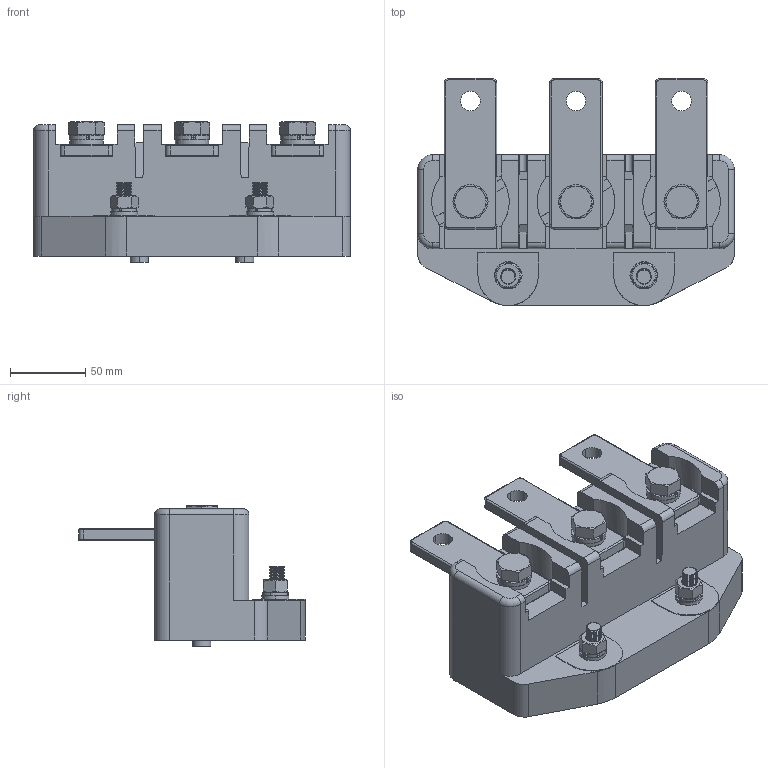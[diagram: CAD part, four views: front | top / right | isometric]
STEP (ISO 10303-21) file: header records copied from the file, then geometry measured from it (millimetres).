
FILE_DESCRIPTION (( 'STEP AP214' ), '1' );
FILE_NAME ('TGM1NE-800-3P Îñíîâàíèå âòû÷íîå.STEP', '2025-12-10T08:49:34', ( '' ), ( '' ), 'SwSTEP 2.0', 'SolidWorks 2024', '' );
FILE_SCHEMA (( 'AUTOMOTIVE_DESIGN' ));
Length unit declared in the file: millimetre
Products named in the file (3): TGM1NE-800-3P Основание втычное.stp; TGM1NE-800-3P Основание втычное; 底座_1_3.stp
Assembly tree (2 placements, depth 3):
  TGM1NE-800-3P Основание втычное
    TGM1NE-800-3P Основание втычное.stp
      底座_1_3.stp
Bounding box: 210 x 150.5 x 92.98 mm (x, y, z)
Volume: 979482.6 mm3; surface area: 227733.7 mm2
Topology: 1 solids, 40 shells, 1907 faces, 5308 edges, 3322 vertices
Faces by surface type: plane 629, cone 587, cylinder 531, torus 148, bspline 12
Entity records: 67073 total; most frequent: CARTESIAN_POINT 18311, ORIENTED_EDGE 10616, DIRECTION 10138, EDGE_CURVE 5308, AXIS2_PLACEMENT_3D 4053, VERTEX_POINT 3322, CIRCLE 2152, EDGE_LOOP 2038
